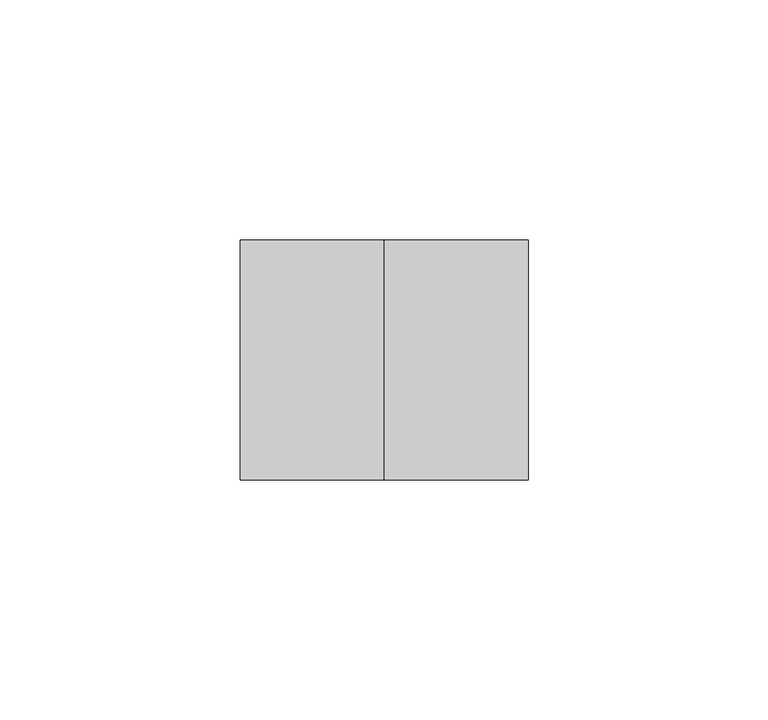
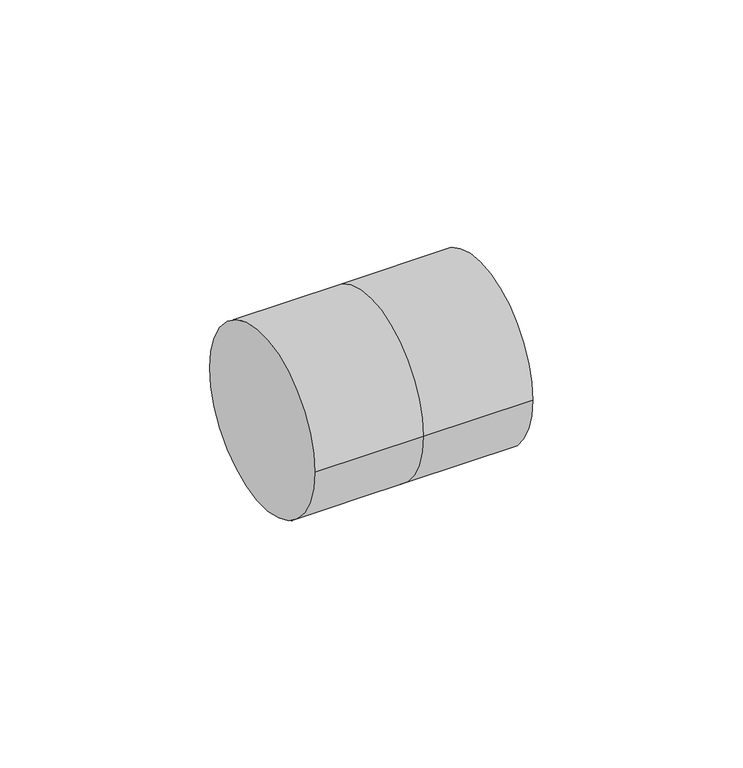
"""IFC4 building model written with IfcOpenShell, lengths in millimetres: pipe fitting geometry."""

import ifcopenshell
import ifcopenshell.guid

model = None  # the IFC model being written
_history = None  # IfcOwnerHistory: only IFC2X3 demands one
_inside = {}  # id of a spatial element -> (the spatial element, [elements in it])
_under = {}  # id of a project, library or spatial element -> (it, [spatial elements below it])
_declared = {}  # id of a project -> (the project, [libraries it declares])
_typed = {}  # id of a type object -> (the type object, [elements of that type])
_made_of = {}  # id of a material, layer set ... -> (it, [elements and type objects made of it])


def new_model(schema):
    """Start an empty IFC model of exactly this schema.

    Asked for "IFC4X3", IfcOpenShell would pick the latest addendum, in which some entities
    have other attributes; the version numbers below select the first issue.
    IFC2X3 requires an IfcOwnerHistory on every rooted entity: one is made here for all.
    """
    global model, _history
    if schema == "IFC4X3":
        model = ifcopenshell.file(schema_version=(4, 3, 0, 0))
    else:
        model = ifcopenshell.file(schema=schema)
    _inside.clear()
    _under.clear()
    _declared.clear()
    _typed.clear()
    _made_of.clear()
    _history = None
    if model.schema == "IFC2X3":
        org = make("IfcOrganization", Name="unknown")
        user = make(
            "IfcPersonAndOrganization",
            ThePerson=make("IfcPerson", FamilyName="unknown"),
            TheOrganization=org,
        )
        app = make(
            "IfcApplication",
            ApplicationDeveloper=org,
            Version="unknown",
            ApplicationFullName="unknown",
            ApplicationIdentifier="unknown",
        )
        _history = make(
            "IfcOwnerHistory",
            OwningUser=user,
            OwningApplication=app,
            ChangeAction="ADDED",
            CreationDate=0,
        )
    return model


def make(cls, **values):
    """One entity of the class cls with the attributes given. An attribute that is None is left unset."""
    return model.create_entity(
        cls, **{name: value for name, value in values.items() if value is not None}
    )


def rooted(cls, **values):
    """An entity with a GlobalId (a new one), such as an element, a storey or a relation."""
    return make(cls, GlobalId=ifcopenshell.guid.new(), OwnerHistory=_history, **values)


def si_unit(unit_type, name, prefix=None):
    """IfcSIUnit, for example si_unit("LENGTHUNIT", "METRE", prefix="MILLI")."""
    return make("IfcSIUnit", UnitType=unit_type, Prefix=prefix, Name=name)


def assignment(units):
    """IfcUnitAssignment: the units of a project."""
    return None if units is None else make("IfcUnitAssignment", Units=units)


def point(xyz):
    """IfcCartesianPoint."""
    return None if xyz is None else make("IfcCartesianPoint", Coordinates=xyz)


def direction(xyz):
    """IfcDirection."""
    return None if xyz is None else make("IfcDirection", DirectionRatios=xyz)


def frame(location, z_axis=None, x_axis=None):
    """IfcAxis2Placement3D, a coordinate frame: its origin and axes. An axis left out is left unset."""
    return make(
        "IfcAxis2Placement3D",
        Location=point(location),
        Axis=direction(z_axis),
        RefDirection=direction(x_axis),
    )


def origin():
    """The frame at (0, 0, 0) with its axes left unset."""
    return frame((0.0, 0.0, 0.0))


def place(relative_to, where):
    """IfcLocalPlacement: puts the frame where relative to a parent placement (None: the world)."""
    return make(
        "IfcLocalPlacement", PlacementRelTo=relative_to, RelativePlacement=where
    )


def context(
    kind, dimensions, precision=None, world=None, true_north=None, identifier=None
):
    """IfcGeometricRepresentationContext, for example the 3D "Model" context."""
    return make(
        "IfcGeometricRepresentationContext",
        ContextIdentifier=identifier,
        ContextType=kind,
        CoordinateSpaceDimension=dimensions,
        Precision=precision,
        WorldCoordinateSystem=world,
        TrueNorth=true_north,
    )


def project(units=None, contexts=None):
    """IfcProject with its units and contexts."""
    return rooted(
        "IfcProject",
        Name="project",
        RepresentationContexts=contexts,
        UnitsInContext=assignment(units),
    )


def spatial(cls, under=None, at=None, **own):
    """A site, building, storey or space (cls), placed at a placement, below another one or the project."""
    s = rooted(cls, ObjectPlacement=at, **own)
    if under is not None:
        _under.setdefault(under.id(), (under, []))[1].append(s)
    return s


def polyline(points):
    """IfcPolyline through the points."""
    return make("IfcPolyline", Points=[point(p) for p in points])


def circle_curve(where, radius):
    """IfcCircle in the frame where."""
    return make("IfcCircle", Position=where, Radius=radius)


def shape(context_of_items, identifier, shape_type, items):
    """IfcShapeRepresentation: the items that make up one representation, for example the "Body"."""
    return make(
        "IfcShapeRepresentation",
        ContextOfItems=context_of_items,
        RepresentationIdentifier=identifier,
        RepresentationType=shape_type,
        Items=items,
    )


def source(mapping_origin, context_of_items, identifier, shape_type, items):
    """IfcRepresentationMap: a shape defined once, which mapped items show again and again."""
    return make(
        "IfcRepresentationMap",
        MappingOrigin=mapping_origin,
        MappedRepresentation=shape(context_of_items, identifier, shape_type, items),
    )


def transform(
    local_origin,
    x_axis=None,
    y_axis=None,
    z_axis=None,
    scale=None,
    scale2=None,
    scale3=None,
    uniform=True,
):
    """IfcCartesianTransformationOperator3D, or its non-uniform kind. x_axis, y_axis, z_axis: its Axis1, 2, 3."""
    if uniform:
        return make(
            "IfcCartesianTransformationOperator3D",
            Axis1=direction(x_axis),
            Axis2=direction(y_axis),
            LocalOrigin=point(local_origin),
            Scale=scale,
            Axis3=direction(z_axis),
        )
    return make(
        "IfcCartesianTransformationOperator3DnonUniform",
        Axis1=direction(x_axis),
        Axis2=direction(y_axis),
        LocalOrigin=point(local_origin),
        Scale=scale,
        Axis3=direction(z_axis),
        Scale2=scale2,
        Scale3=scale3,
    )


def mapped(mapping_source, mapping_target):
    """IfcMappedItem: shows the shape of a source again, moved by a transform."""
    return make(
        "IfcMappedItem", MappingSource=mapping_source, MappingTarget=mapping_target
    )


def made_of(thing, what):
    """Note that an element or type object is made of a material, layer set ...; save() writes the relation."""
    if what is not None:
        _made_of.setdefault(what.id(), (what, []))[1].append(thing)
    return thing


def element(
    cls,
    number,
    at=None,
    inside=None,
    cuts=None,
    type_object=None,
    material=None,
    context=None,
    identifier="Body",
    shape_type=None,
    held_by="IfcProductDefinitionShape",
    body=None,
    shapes=None,
    **own,
):
    """One element of the class cls, such as IfcWall. Its Tag is "e" and its number.

    at: its placement. inside: the storey or other place that contains it. cuts: it is an
    opening in that element (IfcRelVoidsElement). A single representation is given by context,
    identifier, shape_type and body (its items); several are given by shapes. held_by: the class
    of the entity that holds the representations. save() writes the other relations.
    """
    e = rooted(cls, Tag="e%d" % number, ObjectPlacement=at, **own)
    if body is not None:
        shapes = [shape(context, identifier, shape_type, body)]
    if shapes is not None:
        e.Representation = make(held_by, Representations=shapes)
    if inside is not None:
        _inside.setdefault(inside.id(), (inside, []))[1].append(e)
    if cuts is not None:
        rooted(
            "IfcRelVoidsElement", RelatingBuildingElement=cuts, RelatedOpeningElement=e
        )
    if type_object is not None:
        _typed.setdefault(type_object.id(), (type_object, []))[1].append(e)
    return made_of(e, material)


def aggregate(whole, parts):
    """IfcRelAggregates: a whole, such as a stair, and the parts it consists of."""
    return rooted("IfcRelAggregates", RelatingObject=whole, RelatedObjects=parts)


def save(model, path):
    """Write the relations noted so far, then the file.

    IfcRelAggregates (storeys below a building ...), IfcRelContainedInSpatialStructure (elements
    in a storey), IfcRelDefinesByType, IfcRelAssociatesMaterial and IfcRelDeclares: one each for
    every whole, place, type object, material and project.
    """
    for whole, parts in _under.values():
        aggregate(whole, parts)
    for where, things in _inside.values():
        rooted(
            "IfcRelContainedInSpatialStructure",
            RelatedElements=things,
            RelatingStructure=where,
        )
    for kind, things in _typed.values():
        rooted("IfcRelDefinesByType", RelatedObjects=things, RelatingType=kind)
    for what, things in _made_of.values():
        rooted("IfcRelAssociatesMaterial", RelatedObjects=things, RelatingMaterial=what)
    for by, libraries in _declared.values():
        rooted("IfcRelDeclares", RelatingContext=by, RelatedDefinitions=libraries)
    model.write(path)


def plane_surface(at):
    """IfcPlane: the flat surface through the origin of the frame at, square to its z axis."""
    return make("IfcPlane", Position=at)


def cylinder_surface(at, radius):
    """IfcCylindricalSurface: all points at the distance radius from the z axis of the frame at."""
    return make("IfcCylindricalSurface", Position=at, Radius=radius)


def revolved_surface(curve, axis_point, axis_direction):
    """IfcSurfaceOfRevolution: the curve turned about the line through axis_point along axis_direction."""
    return make(
        "IfcSurfaceOfRevolution",
        SweptCurve=make("IfcArbitraryOpenProfileDef", ProfileType="CURVE", Curve=curve),
        AxisPosition=make("IfcAxis1Placement", Location=point(axis_point), Axis=direction(axis_direction)),
    )


def advanced_brep(points, edges, surfaces, faces):
    """IfcAdvancedBrep: a solid bounded by faces that lie on surfaces and meet in shared edges.

    An edge is (start, end): straight between two places in points (the first is 0);
    or (start, end, curve); or (start, end, curve, False) where it runs against its curve.
    A face is (place in surfaces, loops), or (place, loops, False) where it looks against
    its surface's normal. A loop lists edges by number (the first is 1), with a minus sign
    where the edge is run from its end to its start. The first loop is the outer one.
    """
    corners = [point(p) for p in points]
    vertices = [make("IfcVertexPoint", VertexGeometry=c) for c in corners]
    made = []
    for start, end, *more in edges:
        made.append(
            make(
                "IfcEdgeCurve",
                EdgeStart=vertices[start],
                EdgeEnd=vertices[end],
                EdgeGeometry=more[0] if more else make("IfcPolyline", Points=[corners[start], corners[end]]),
                SameSense=more[1] if len(more) > 1 else True,
            )
        )
    hull = []
    for where, loops, *sense in faces:
        bounds = []
        for j, loop in enumerate(loops):
            ring = [make("IfcOrientedEdge", EdgeElement=made[abs(k) - 1], Orientation=k > 0) for k in loop]
            bounds.append(
                make(
                    "IfcFaceOuterBound" if j == 0 else "IfcFaceBound",
                    Bound=make("IfcEdgeLoop", EdgeList=ring),
                    Orientation=True,
                )
            )
        hull.append(make("IfcAdvancedFace", Bounds=bounds, FaceSurface=surfaces[where], SameSense=sense[0] if sense else True))
    return make("IfcAdvancedBrep", Outer=make("IfcClosedShell", CfsFaces=hull))


def pipe_fitting_509cdd89(model_context):
    return source(origin(), model_context, "Body", "AdvancedBrep", [
        advanced_brep(
        [(30.0, -25.0, 0.0), (30.0, 25.0, 0.0), (30.0, -16.0, 0.0), (30.0, 16.0, 0.0), (0.0, -25.0, 0.0), (0.0, 25.0, 0.0), (0.0, -16.0, 0.0), (0.0, 16.0, 0.0), (-30.0, -25.0, 0.0), (-30.0, 25.0, 0.0)],
        [
            (0, 1, circle_curve(frame((30.0, 0.0, 0.0), z_axis=(1.0, 0.0, 0.0), x_axis=(0.0, 1.0, 0.0)), 25.0)),
            (1, 0, circle_curve(frame((30.0, 0.0, 0.0), z_axis=(1.0, 0.0, 0.0), x_axis=(0.0, 1.0, 0.0)), 25.0)),
            (2, 3, circle_curve(frame((30.0, 0.0, 0.0), z_axis=(-1.0, 0.0, 0.0), x_axis=(0.0, 1.0, 0.0)), 16.0)),
            (3, 2, circle_curve(frame((30.0, 0.0, 0.0), z_axis=(-1.0, 0.0, 0.0), x_axis=(0.0, 1.0, 0.0)), 16.0)),
            (0, 4),
            (4, 5, circle_curve(frame((0.0, 0.0, 0.0), z_axis=(1.0, 0.0, 0.0), x_axis=(0.0, 1.0, 0.0)), 25.0)),
            (5, 1),
            (5, 4, circle_curve(frame((0.0, 0.0, 0.0), z_axis=(1.0, 0.0, 0.0), x_axis=(0.0, 1.0, 0.0)), 25.0)),
            (2, 6),
            (6, 7, circle_curve(frame((0.0, 0.0, 0.0), z_axis=(-1.0, 0.0, 0.0), x_axis=(0.0, 1.0, 0.0)), 16.0)),
            (7, 3),
            (7, 6, circle_curve(frame((0.0, 0.0, 0.0), z_axis=(-1.0, 0.0, 0.0), x_axis=(0.0, 1.0, 0.0)), 16.0)),
            (8, 9, circle_curve(frame((-30.0, 0.0, 0.0), z_axis=(-1.0, 0.0, 0.0), x_axis=(0.0, 1.0, 0.0)), 25.0)),
            (9, 8, circle_curve(frame((-30.0, 0.0, 0.0), z_axis=(-1.0, 0.0, 0.0), x_axis=(0.0, 1.0, 0.0)), 25.0)),
            (9, 5),
            (4, 8),
        ],
        [
            plane_surface(frame((30.0, 25.0, 0.0), z_axis=(1.0, 0.0, 0.0), x_axis=(0.0, 0.0, 1.0))),
            cylinder_surface(frame((0.0, 0.0, 0.0), z_axis=(1.0, 0.0, 0.0), x_axis=(0.0, 1.0, 0.0)), 25.0),
            revolved_surface(polyline([(0.0, 16.0, 0.0), (30.0, 16.0, 0.0)]), (0.0, 0.0, 0.0), (-1.0, 0.0, 0.0)),
            plane_surface(frame((0.0, 25.0, 0.0), z_axis=(1.0, 0.0, 0.0), x_axis=(0.0, 0.0, 1.0))),
            plane_surface(frame((-30.0, 25.0, 0.0), z_axis=(-1.0, 0.0, 0.0), x_axis=(0.0, 0.0, -1.0))),
            cylinder_surface(frame((-30.0, 0.0, 0.0), z_axis=(1.0, 0.0, 0.0), x_axis=(0.0, 1.0, 0.0)), 25.0),
        ],
        [
            (0, [[1, 2], [3, 4]]),
            (1, [[-1, 5, 6, 7]]),
            (1, [[-2, -7, 8, -5]]),
            (2, [[-3, 9, 10, 11]]),
            (2, [[-4, -11, 12, -9]]),
            (3, [[-10, -12]]),
            (4, [[13, 14]]),
            (5, [[-14, 15, -6, 16]]),
            (5, [[-13, -16, -8, -15]]),
        ],
    ),
    ])


if __name__ == "__main__":
    model = new_model("IFC4")
    model_context = context("Model", 3, world=origin())
    ifc_project = project(units=[si_unit("LENGTHUNIT", "METRE", prefix="MILLI")], contexts=[model_context])
    site = spatial("IfcSite", under=ifc_project)
    building = spatial("IfcBuilding", under=site)
    placement = place(None, origin())
    pipe_fitting_shape = pipe_fitting_509cdd89(model_context)
    element("IfcPipeFitting", 1, ObjectType="NLRS_52_PIF_UN_PE overgang met binnendraad_geb : DN40-70-Rp2½\" / ø40-75-Rp2½\"", at=placement, inside=building, context=model_context, shape_type="MappedRepresentation", body=[
        mapped(pipe_fitting_shape, transform((0.0, 0.0, 0.0), x_axis=(1.0, 0.0, 0.0), y_axis=(0.0, 1.0, 0.0), z_axis=(0.0, 0.0, 1.0))),
    ])
    save(model, "model.ifc")
